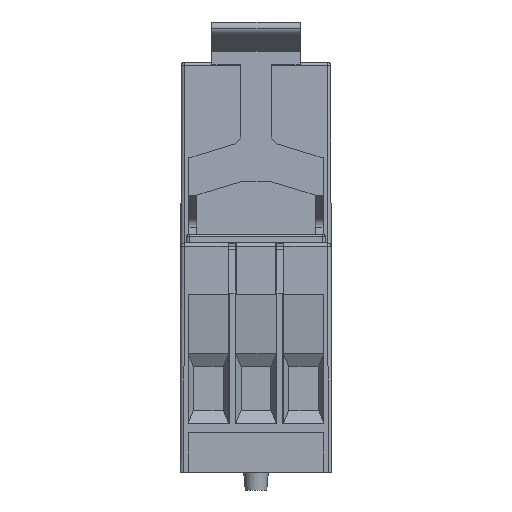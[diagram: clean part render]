
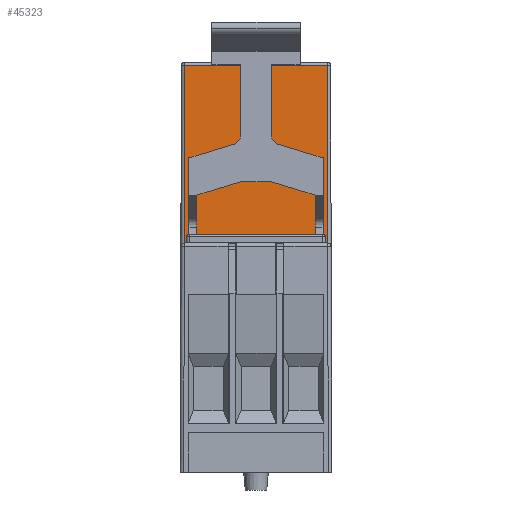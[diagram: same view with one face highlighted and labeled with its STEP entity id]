
A CAD part, front view. The second image highlights one B-rep face of the part: STEP entity #45323.
In plain terms, the highlighted planar face has unit normal (0, -1, 0.005).
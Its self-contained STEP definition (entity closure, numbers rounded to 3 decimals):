
#5927 = CARTESIAN_POINT ( 'NONE',  ( 0.484, 52.426, 28. ) ) ;
#8944 = DIRECTION ( 'NONE',  ( 0., 1., -0.005 ) ) ;
#12943 = VECTOR ( 'NONE', #18655, 1000. ) ;
#13239 = VECTOR ( 'NONE', #29636, 1000. ) ;
#13498 = LINE ( 'NONE', #27035, #43860 ) ;
#14115 = CARTESIAN_POINT ( 'NONE',  ( 0.549, 52.524, 48.102 ) ) ;
#14429 = LINE ( 'NONE', #32698, #18755 ) ;
#16632 = ORIENTED_EDGE ( 'NONE', *, *, #36747, .F. ) ;
#17432 = AXIS2_PLACEMENT_3D ( 'NONE', #36879, #8944, #54547 ) ;
#18655 = DIRECTION ( 'NONE',  ( 0.003, 0.005, 1. ) ) ;
#18755 = VECTOR ( 'NONE', #51771, 1000. ) ;
#19606 = ORIENTED_EDGE ( 'NONE', *, *, #29399, .F. ) ;
#20353 = LINE ( 'NONE', #34108, #13239 ) ;
#22170 = EDGE_CURVE ( 'NONE', #57433, #25362, #22904, .T. ) ;
#22904 = LINE ( 'NONE', #59359, #12943 ) ;
#23814 = EDGE_CURVE ( 'NONE', #25362, #49872, #14429, .T. ) ;
#25362 = VERTEX_POINT ( 'NONE', #14115 ) ;
#27035 = CARTESIAN_POINT ( 'NONE',  ( 16.65, 52.526, 48.493 ) ) ;
#27951 = PLANE ( 'NONE',  #17432 ) ;
#29399 = EDGE_CURVE ( 'NONE', #49872, #56850, #13498, .T. ) ;
#29636 = DIRECTION ( 'NONE',  ( -1., 0., 0. ) ) ;
#32698 = CARTESIAN_POINT ( 'NONE',  ( 18.8, 52.524, 48.102 ) ) ;
#34108 = CARTESIAN_POINT ( 'NONE',  ( 17.1, 52.426, 28. ) ) ;
#36747 = EDGE_CURVE ( 'NONE', #56850, #57433, #20353, .T. ) ;
#36879 = CARTESIAN_POINT ( 'NONE',  ( 18.8, 52.526, 48.5 ) ) ;
#37611 = EDGE_LOOP ( 'NONE', ( #55738, #16632, #19606, #57825 ) ) ;
#37731 = CARTESIAN_POINT ( 'NONE',  ( 16.651, 52.524, 48.102 ) ) ;
#40010 = CARTESIAN_POINT ( 'NONE',  ( 16.716, 52.426, 28. ) ) ;
#43860 = VECTOR ( 'NONE', #49385, 1000. ) ;
#45323 = ADVANCED_FACE ( 'NONE', ( #55424 ), #27951, .F. ) ;
#49385 = DIRECTION ( 'NONE',  ( 0.003, -0.005, -1. ) ) ;
#49872 = VERTEX_POINT ( 'NONE', #37731 ) ;
#51771 = DIRECTION ( 'NONE',  ( 1., 0., 0. ) ) ;
#54547 = DIRECTION ( 'NONE',  ( 0., 0.005, 1. ) ) ;
#55424 = FACE_OUTER_BOUND ( 'NONE', #37611, .T. ) ;
#55738 = ORIENTED_EDGE ( 'NONE', *, *, #22170, .F. ) ;
#56850 = VERTEX_POINT ( 'NONE', #40010 ) ;
#57433 = VERTEX_POINT ( 'NONE', #5927 ) ;
#57825 = ORIENTED_EDGE ( 'NONE', *, *, #23814, .F. ) ;
#59359 = CARTESIAN_POINT ( 'NONE',  ( 0.484, 52.426, 28. ) ) ;
